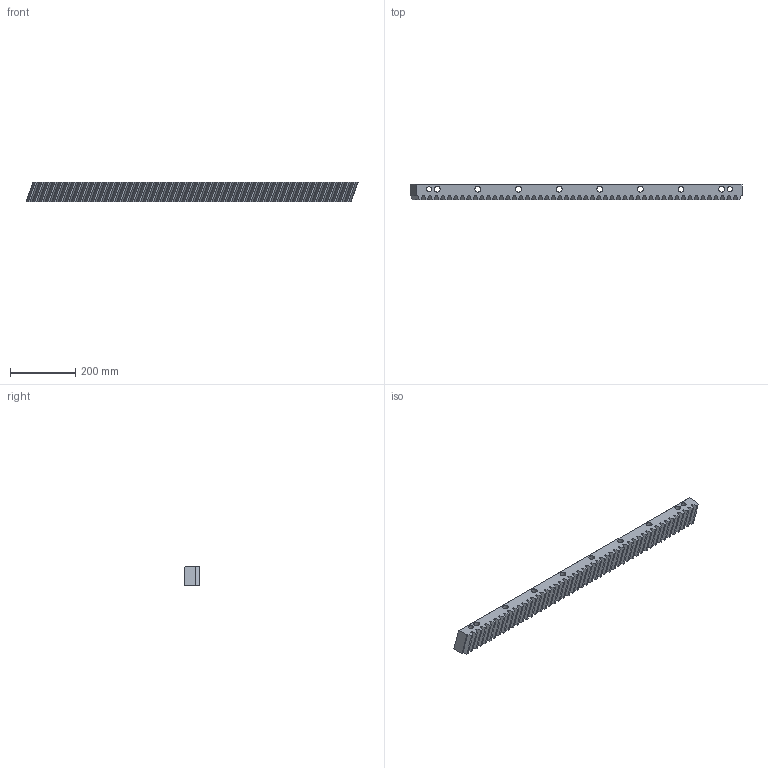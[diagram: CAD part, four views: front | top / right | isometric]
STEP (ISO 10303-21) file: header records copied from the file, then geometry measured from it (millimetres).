
FILE_DESCRIPTION(/* description */ (''),/* implementation_level */ '2;1');
FILE_NAME(/* name */ 'BL-1HR29R060100H.ipt',/* time_stamp */ '2019-06-18T14:27:28+02:00',/* author */ ('VĂ©gh MĂˇtĂ©'),/* organization */ ('Bearing Kft'),/* preprocessor_version */ 'ST-DEVELOPER v16.7',/* originating_system */ 'DEX',/* authorisation */ $);
FILE_SCHEMA (('AUTOMOTIVE_DESIGN {1 0 10303 214 3 1 1}'));
Length unit declared in the file: millimetre
Products named in the file (1): BL-1HR29R060100H.ipt
Bounding box: 1021.28 x 49 x 60 mm (x, y, z)
Volume: 2369592.7 mm3; surface area: 299619.1 mm2
Topology: 1 solids, 1 shells, 675 faces, 1818 edges, 1212 vertices
Faces by surface type: plane 475, bspline 181, cylinder 19
Full cylindrical faces by diameter (mm): 15.7 x2, 18 x8, 26 x8
Entity records: 31476 total; most frequent: CARTESIAN_POINT 10746, ORIENTED_EDGE 3578, DIRECTION 2655, EDGE_CURVE 1789, LINE 1389, VECTOR 1389, VERTEX_POINT 1212, EDGE_LOOP 791
